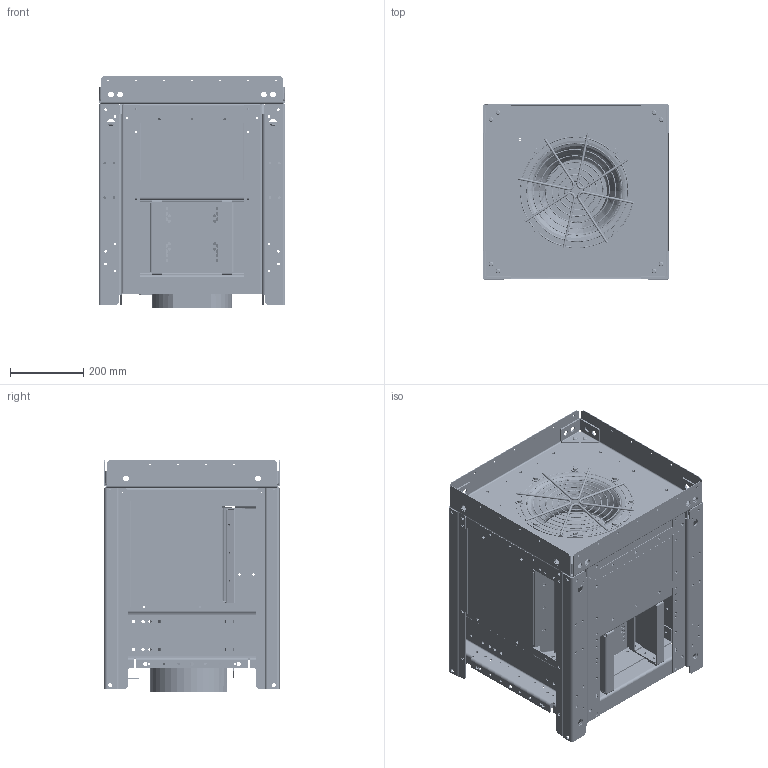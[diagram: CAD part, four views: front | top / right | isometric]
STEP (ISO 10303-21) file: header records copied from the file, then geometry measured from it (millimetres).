
FILE_DESCRIPTION((''),'2;1');
FILE_NAME('105_100_184T_ASM_ASM','2016-08-03T',('cthatcc'),(''),'CREO PARAMETRIC BY PTC INC, 2016050','CREO PARAMETRIC BY PTC INC, 2016050','');
FILE_SCHEMA(('CONFIG_CONTROL_DESIGN'));
Length unit declared in the file: inch
Products named in the file (70): 0575820015_1_1; 0575830007_1_1; 0575740011_1_1; 0575880015_1_1; 0578340001_1_1; 057834_MIR_1_1; 0575820015_MIR_1_1; 0575990015_ASM_2_ASM_1_ASM; 0575680016; NEMA_184T_TEFC_1_1; 0575690006_1_1; 0576650017_1_1; 0575650013_5_1; 0575760007_8_1; 0575880016_1_1; 057581_1_1; NUT-INSERT_RIVET_31-18THD_1_1; WA012_1_1; HCS048_2_1; 0575660014_1_1; 0575700022_1_1; 0575790020_1_1; 0575890019_ASM_1_ASM_1_ASM; 0575660015_1_1; 0575700023_1_1; 0575790021_1_1; 0575890020_ASM_1_ASM_1_ASM; 058559_1_1; INLETGUARD_105_1_1; ROD_105_1_1; 0576560009_ASM_1_ASM_1_ASM; WHEEL_DUMMY_105_1_1; 057699-105-001_4_1; 057699--105-012_4_1; 057699-105-002_4_1; 057699-105-010_4_1; 057699-105-013_4_1; 057699-105-004_4_1; 057699-105-008_4_1; 057699-105-014_4_1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
Assembly tree (161 placements, depth 6):
  105_100_184T_ASM_ASM
    105_100_184T_ASM_ASM_1_ASM
      105_100_184T_TRANE_ASM_20_ASM_1_ASM
        0575990015_ASM_2_ASM_1_ASM  x2
          0575820015_1_1
          0575830007_1_1
          0575740011_1_1
          0575880015_1_1
          0578340001_1_1
          057834_MIR_1_1
          0575820015_MIR_1_1
        0575680016
        NEMA_184T_TEFC_1_1
        0575690006_1_1
        0576650017_1_1
        0575650013_5_1
        0575760007_8_1
        0575880016_1_1  x3
        057581_1_1  x4
        NUT-INSERT_RIVET_31-18THD_1_1  x8
        WA012_1_1  x8
        HCS048_2_1  x8
        0575890019_ASM_1_ASM_1_ASM
          0575660014_1_1
          0575700022_1_1
          0575790020_1_1
        0575890020_ASM_1_ASM_1_ASM
          0575660015_1_1
          0575700023_1_1
          0575790021_1_1
        058559_1_1
        0576560009_ASM_1_ASM_1_ASM
          INLETGUARD_105_1_1
          ROD_105_1_1  x4
        WHEEL_DUMMY_105_1_1
        057699-105_ASM_40_ASM_1_ASM
          057699-105__ASM_4_ASM_1_ASM
            057699-105-001_4_1
            057699--105-012_4_1
            057699-105-002_4_1
            057699-105-010_4_1
            057699-105-013_4_1
            057699-105-004_4_1  x12
            057699-105-008_4_1  x8
            057699-105-014_4_1  x2
            057699--105-015_4_1  x2
            057699-105-018_4_1
            057699-105-019_4_1
            057699-105-020_4_1
            057699-105-021_4_1
            057699-105-025_4_1
            057699-105-026_4_1
            057699-105-027_4_1
            057699-105-028_4_1
          057699-105-MIR_ASM_6_ASM_1_ASM
            057699-105-184T-001_MIR_5_1
            057699--105-012_4_1
            057699-105-002_4_1
            057699-105-010_4_1
            057699-105-013_4_1
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Bounding box: 508.76 x 477.27 x 633.27 mm (x, y, z)
Volume: 40033597.8 mm3; surface area: 7878516.4 mm2
Topology: 157 solids, 157 shells, 4524 faces, 11284 edges, 7126 vertices
Faces by surface type: cylinder 2535, plane 1701, torus 164, bspline 66, cone 58
Entity records: 104454 total; most frequent: CARTESIAN_POINT 32404, DIRECTION 15948, ORIENTED_EDGE 13664, EDGE_CURVE 6832, AXIS2_PLACEMENT_3D 6205, VERTEX_POINT 4244, EDGE_LOOP 3846, VECTOR 3538
